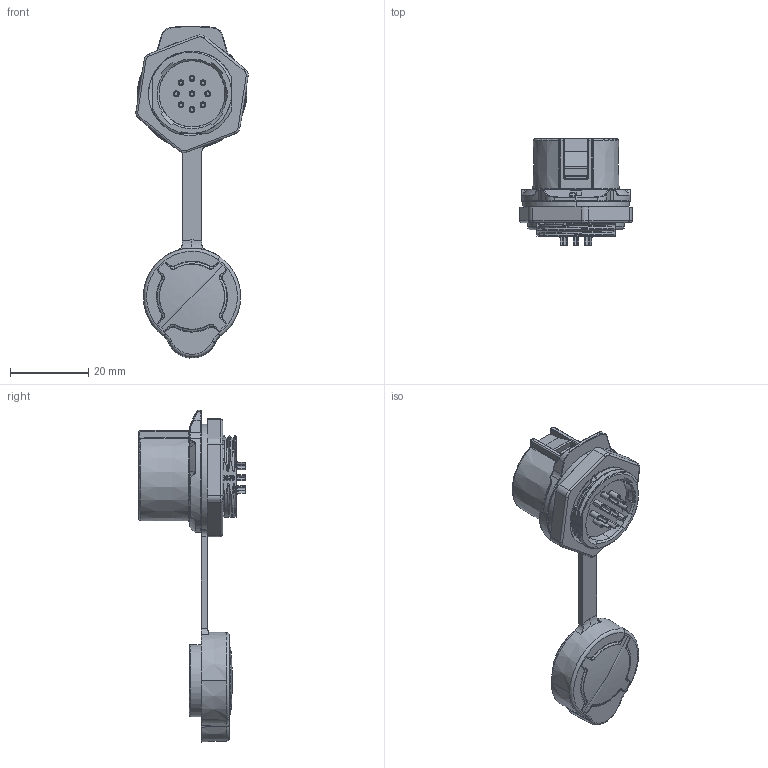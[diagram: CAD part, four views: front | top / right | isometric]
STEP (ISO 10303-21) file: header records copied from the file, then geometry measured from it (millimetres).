
FILE_DESCRIPTION (( 'STEP AP203' ), '1' );
FILE_NAME ('LP-20-J09SX-02-171.STEP', '2023-11-27T09:49:38', ( 'Windows 蚚誧' ), ( 'Organization' ), 'SwSTEP 2.0', 'SolidWorks 2017', '' );
FILE_SCHEMA (( 'CONFIG_CONTROL_DESIGN' ));
Length unit declared in the file: millimetre
Products named in the file (1): LP-20-J09SX-02-171
Bounding box: 28.79 x 27.3 x 85.11 mm (x, y, z)
Volume: 11263 mm3; surface area: 11984.6 mm2
Topology: 1 solids, 5 shells, 1384 faces, 3608 edges, 2266 vertices
Faces by surface type: plane 429, bspline 357, cylinder 302, cone 178, torus 117, sphere 1
Entity records: 69079 total; most frequent: CARTESIAN_POINT 38225, ORIENTED_EDGE 7190, DIRECTION 5363, EDGE_CURVE 3595, VERTEX_POINT 2268, AXIS2_PLACEMENT_3D 2048, EDGE_LOOP 1465, FACE_OUTER_BOUND 1385
